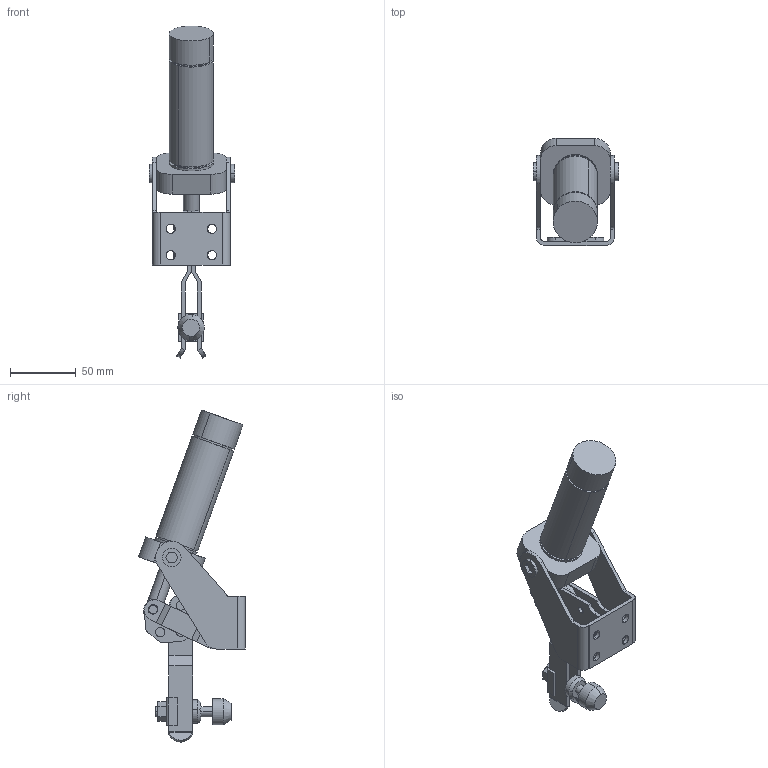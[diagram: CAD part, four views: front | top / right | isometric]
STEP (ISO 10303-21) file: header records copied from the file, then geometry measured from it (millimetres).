
FILE_DESCRIPTION (( 'STEP AP214' ), '1' );
FILE_NAME ('620Y-3 Montaj.STEP', '2017-05-03T08:46:23', ( '' ), ( '' ), 'SwSTEP 2.0', 'SolidWorks 2015', '' );
FILE_SCHEMA (( 'AUTOMOTIVE_DESIGN' ));
Length unit declared in the file: millimetre
Products named in the file (19): 620Y-3-12 ozel somun; 620Y-3-8 civata; 620Y-3-20 somun; 620Y-3-21 u papuc; 620Y-3-17 part12-1; 620Y-3-26 Par1; 620Y-3-1; 620Y-3-7 tirnak; 620Y-3-6 lama; 620Y-3-3 halka; 620Y-3-4 ayak sað; 620Y-3-2 ayak sol; 620Y-3 Montaj; 620Y-3-19 tabla; 620Y-3-9 civata2-1; 620Y-3-14 Part3-1; 620Y-3-13 Part2-1; 620Y-3-15 Part4; 620Y-3-10 lastik
Assembly tree (24 placements, depth 2):
  620Y-3 Montaj
    620Y-3-2 ayak sol
    620Y-3-4 ayak sað
    620Y-3-3 halka
    620Y-3-6 lama  x2
    620Y-3-7 tirnak  x2
    620Y-3-1  x2
    620Y-3-26 Par1  x3
    620Y-3-17 part12-1  x2
    620Y-3-21 u papuc
    620Y-3-20 somun
    620Y-3-8 civata
    620Y-3-12 ozel somun
    620Y-3-10 lastik
    620Y-3-15 Part4
    620Y-3-13 Part2-1
    620Y-3-14 Part3-1
    620Y-3-9 civata2-1
    620Y-3-19 tabla
Bounding box: 65 x 81.23 x 252.08 mm (x, y, z)
Volume: 205968.7 mm3; surface area: 82654.8 mm2
Topology: 24 solids, 24 shells, 568 faces, 1417 edges, 936 vertices
Faces by surface type: plane 302, cylinder 191, bspline 71, cone 4
Entity records: 19364 total; most frequent: CARTESIAN_POINT 6839, ORIENTED_EDGE 2332, DIRECTION 2158, EDGE_CURVE 1166, VERTEX_POINT 772, AXIS2_PLACEMENT_3D 721, LINE 716, VECTOR 716
